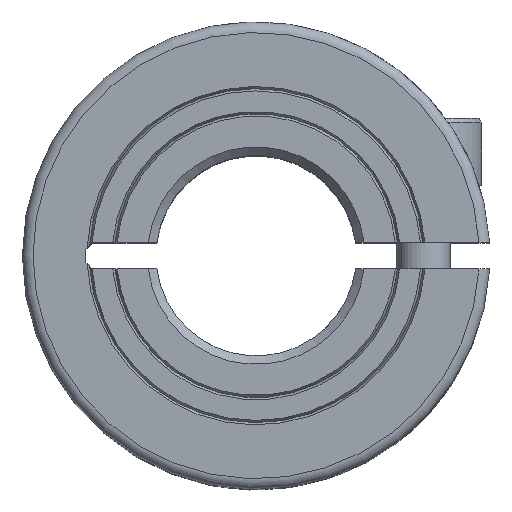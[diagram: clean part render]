
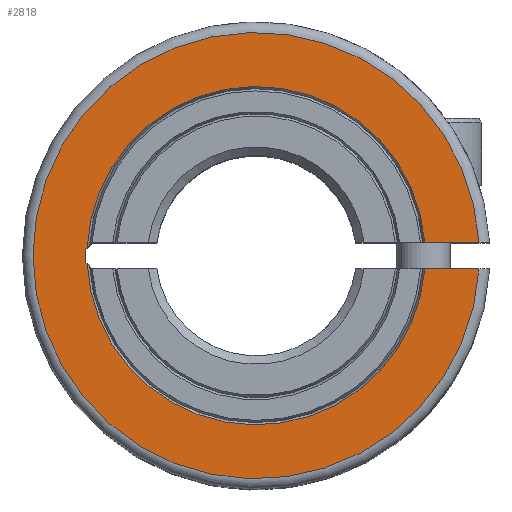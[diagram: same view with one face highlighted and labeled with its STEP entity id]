
A CAD part, top view. The second image highlights one B-rep face of the part: STEP entity #2818.
In plain terms, the highlighted planar face has unit normal (0, 0, 1).
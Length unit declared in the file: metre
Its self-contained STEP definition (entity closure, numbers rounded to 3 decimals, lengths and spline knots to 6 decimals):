
#1 = LINE ( 'NONE', #2655, #1277 ) ;
#45 = DIRECTION ( 'NONE',  ( 0., 0., -1. ) ) ;
#83 = VERTEX_POINT ( 'NONE', #2599 ) ;
#85 = VECTOR ( 'NONE', #1409, 1. ) ;
#151 = FACE_OUTER_BOUND ( 'NONE', #968, .T. ) ;
#162 = CARTESIAN_POINT ( 'NONE',  ( 0., 0., 0.011792 ) ) ;
#197 = DIRECTION ( 'NONE',  ( 0., 0., 1. ) ) ;
#206 = VERTEX_POINT ( 'NONE', #1950 ) ;
#337 = DIRECTION ( 'NONE',  ( 1., 0., 0. ) ) ;
#348 = VERTEX_POINT ( 'NONE', #1260 ) ;
#390 = AXIS2_PLACEMENT_3D ( 'NONE', #854, #197, #426 ) ;
#426 = DIRECTION ( 'NONE',  ( 1., 0., 0. ) ) ;
#481 = LINE ( 'NONE', #1162, #85 ) ;
#503 = ORIENTED_EDGE ( 'NONE', *, *, #1869, .F. ) ;
#515 = DIRECTION ( 'NONE',  ( -0.707, 0.707, 0. ) ) ;
#532 = CARTESIAN_POINT ( 'NONE',  ( -0.010198, -0.000398, 0.011792 ) ) ;
#539 = EDGE_CURVE ( 'NONE', #206, #704, #772, .T. ) ;
#614 = VECTOR ( 'NONE', #2680, 1. ) ;
#615 = CARTESIAN_POINT ( 'NONE',  ( 0.014, 0.000795, 0.011792 ) ) ;
#651 = ORIENTED_EDGE ( 'NONE', *, *, #2458, .F. ) ;
#666 = VERTEX_POINT ( 'NONE', #2296 ) ;
#704 = VERTEX_POINT ( 'NONE', #714 ) ;
#714 = CARTESIAN_POINT ( 'NONE',  ( 0.013341, -0.000795, 0.011792 ) ) ;
#722 = EDGE_CURVE ( 'NONE', #348, #1986, #845, .T. ) ;
#723 = DIRECTION ( 'NONE',  ( -1., 0., 0. ) ) ;
#772 = CIRCLE ( 'NONE', #390, 0.013365 ) ;
#845 = LINE ( 'NONE', #1658, #2882 ) ;
#848 = ORIENTED_EDGE ( 'NONE', *, *, #539, .T. ) ;
#854 = CARTESIAN_POINT ( 'NONE',  ( 0., 0., 0.011792 ) ) ;
#968 = EDGE_LOOP ( 'NONE', ( #1215, #1988, #2901, #651, #1012, #1907, #503, #848 ) ) ;
#1012 = ORIENTED_EDGE ( 'NONE', *, *, #2591, .T. ) ;
#1070 = DIRECTION ( 'NONE',  ( -1., 0., 0. ) ) ;
#1143 = LINE ( 'NONE', #615, #2951 ) ;
#1162 = CARTESIAN_POINT ( 'NONE',  ( -0.010198, 0.000795, 0.011792 ) ) ;
#1208 = DIRECTION ( 'NONE',  ( 0.707, 0.707, 0. ) ) ;
#1215 = ORIENTED_EDGE ( 'NONE', *, *, #2758, .F. ) ;
#1260 = CARTESIAN_POINT ( 'NONE',  ( -0.010121, -0.000475, 0.011792 ) ) ;
#1277 = VECTOR ( 'NONE', #1208, 1. ) ;
#1310 = DIRECTION ( 'NONE',  ( 0., 0., -1. ) ) ;
#1409 = DIRECTION ( 'NONE',  ( 0., -1., 0. ) ) ;
#1418 = VERTEX_POINT ( 'NONE', #1999 ) ;
#1605 = AXIS2_PLACEMENT_3D ( 'NONE', #162, #1310, #2940 ) ;
#1621 = AXIS2_PLACEMENT_3D ( 'NONE', #1861, #45, #723 ) ;
#1658 = CARTESIAN_POINT ( 'NONE',  ( -0.009801, -0.000795, 0.011792 ) ) ;
#1702 = CIRCLE ( 'NONE', #1621, 0.010132 ) ;
#1792 = CARTESIAN_POINT ( 'NONE',  ( 0.010101, 0.000795, 0.011792 ) ) ;
#1824 = LINE ( 'NONE', #2208, #614 ) ;
#1861 = CARTESIAN_POINT ( 'NONE',  ( 0., 0., 0.011792 ) ) ;
#1869 = EDGE_CURVE ( 'NONE', #206, #2621, #1143, .T. ) ;
#1907 = ORIENTED_EDGE ( 'NONE', *, *, #2425, .T. ) ;
#1950 = CARTESIAN_POINT ( 'NONE',  ( 0.013341, 0.000795, 0.011792 ) ) ;
#1986 = VERTEX_POINT ( 'NONE', #532 ) ;
#1988 = ORIENTED_EDGE ( 'NONE', *, *, #2931, .T. ) ;
#1999 = CARTESIAN_POINT ( 'NONE',  ( 0.010101, -0.000795, 0.011792 ) ) ;
#2056 = AXIS2_PLACEMENT_3D ( 'NONE', #2426, #2435, #337 ) ;
#2208 = CARTESIAN_POINT ( 'NONE',  ( 0.014, -0.000795, 0.011792 ) ) ;
#2268 = CIRCLE ( 'NONE', #1605, 0.010132 ) ;
#2296 = CARTESIAN_POINT ( 'NONE',  ( -0.010198, 0.000397, 0.011792 ) ) ;
#2425 = EDGE_CURVE ( 'NONE', #83, #2621, #1702, .T. ) ;
#2426 = CARTESIAN_POINT ( 'NONE',  ( 0., 0., 0.011792 ) ) ;
#2435 = DIRECTION ( 'NONE',  ( 0., 0., 1. ) ) ;
#2458 = EDGE_CURVE ( 'NONE', #666, #1986, #481, .T. ) ;
#2591 = EDGE_CURVE ( 'NONE', #666, #83, #1, .T. ) ;
#2599 = CARTESIAN_POINT ( 'NONE',  ( -0.010121, 0.000475, 0.011792 ) ) ;
#2621 = VERTEX_POINT ( 'NONE', #1792 ) ;
#2655 = CARTESIAN_POINT ( 'NONE',  ( -0.010198, 0.000397, 0.011792 ) ) ;
#2680 = DIRECTION ( 'NONE',  ( 1., 0., 0. ) ) ;
#2758 = EDGE_CURVE ( 'NONE', #1418, #704, #1824, .T. ) ;
#2818 = ADVANCED_FACE ( 'NONE', ( #151 ), #2878, .T. ) ;
#2878 = PLANE ( 'NONE',  #2056 ) ;
#2882 = VECTOR ( 'NONE', #515, 1. ) ;
#2901 = ORIENTED_EDGE ( 'NONE', *, *, #722, .T. ) ;
#2931 = EDGE_CURVE ( 'NONE', #1418, #348, #2268, .T. ) ;
#2940 = DIRECTION ( 'NONE',  ( -1., 0., 0. ) ) ;
#2951 = VECTOR ( 'NONE', #1070, 1. ) ;
